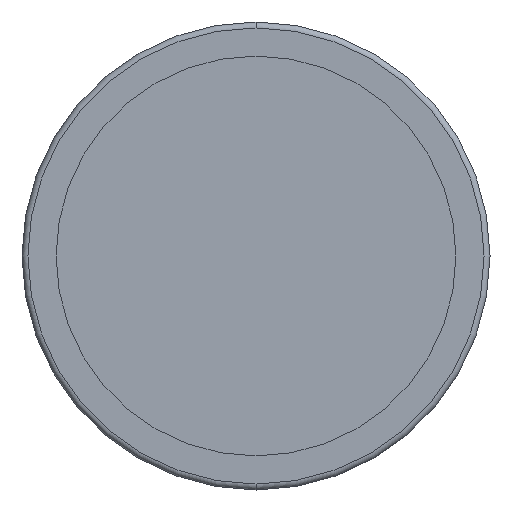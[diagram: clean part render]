
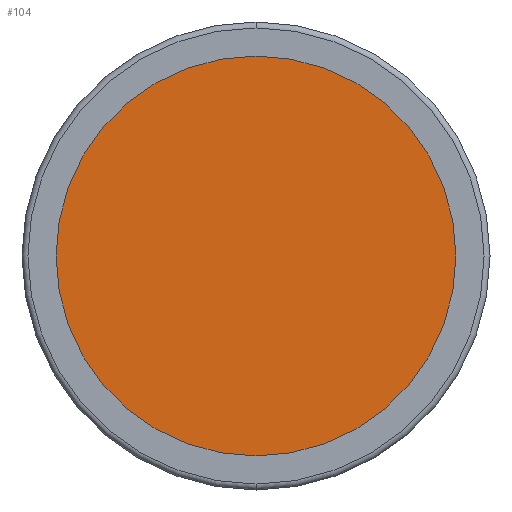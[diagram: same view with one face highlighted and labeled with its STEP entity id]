
A CAD part, front view. The second image highlights one B-rep face of the part: STEP entity #104.
In plain terms, the highlighted planar face has unit normal (0, -1, 0).
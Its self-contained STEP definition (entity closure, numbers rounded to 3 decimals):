
#104 = ADVANCED_FACE ( 'NONE', ( #2270 ), #830, .T. ) ;
#137 = DIRECTION ( 'NONE',  ( 0., 0., 1. ) ) ;
#171 = CIRCLE ( 'NONE', #2796, 33.75 ) ;
#204 = CARTESIAN_POINT ( 'NONE',  ( 0., -2., 0. ) ) ;
#243 = EDGE_CURVE ( 'NONE', #1440, #500, #171, .T. ) ;
#323 = DIRECTION ( 'NONE',  ( 0., -1., 0. ) ) ;
#500 = VERTEX_POINT ( 'NONE', #2790 ) ;
#830 = PLANE ( 'NONE',  #1715 ) ;
#889 = CARTESIAN_POINT ( 'NONE',  ( 0., -2., 0. ) ) ;
#1243 = ORIENTED_EDGE ( 'NONE', *, *, #243, .F. ) ;
#1256 = AXIS2_PLACEMENT_3D ( 'NONE', #889, #1868, #2857 ) ;
#1440 = VERTEX_POINT ( 'NONE', #1717 ) ;
#1523 = EDGE_LOOP ( 'NONE', ( #1243, #1836 ) ) ;
#1715 = AXIS2_PLACEMENT_3D ( 'NONE', #1789, #323, #2023 ) ;
#1717 = CARTESIAN_POINT ( 'NONE',  ( 0., -2., 33.75 ) ) ;
#1729 = CIRCLE ( 'NONE', #1256, 33.75 ) ;
#1789 = CARTESIAN_POINT ( 'NONE',  ( -33.75, -2., 0. ) ) ;
#1836 = ORIENTED_EDGE ( 'NONE', *, *, #2301, .F. ) ;
#1868 = DIRECTION ( 'NONE',  ( 0., 1., 0. ) ) ;
#1881 = DIRECTION ( 'NONE',  ( 0., 1., 0. ) ) ;
#2023 = DIRECTION ( 'NONE',  ( 0., 0., -1. ) ) ;
#2270 = FACE_OUTER_BOUND ( 'NONE', #1523, .T. ) ;
#2301 = EDGE_CURVE ( 'NONE', #500, #1440, #1729, .T. ) ;
#2790 = CARTESIAN_POINT ( 'NONE',  ( 0., -2., -33.75 ) ) ;
#2796 = AXIS2_PLACEMENT_3D ( 'NONE', #204, #1881, #137 ) ;
#2857 = DIRECTION ( 'NONE',  ( 0., 0., 1. ) ) ;
